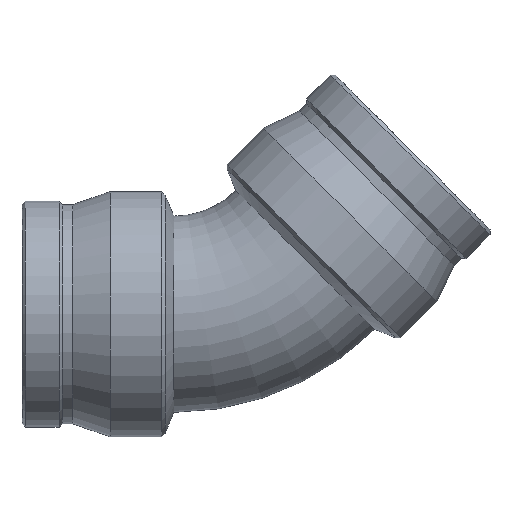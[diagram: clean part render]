
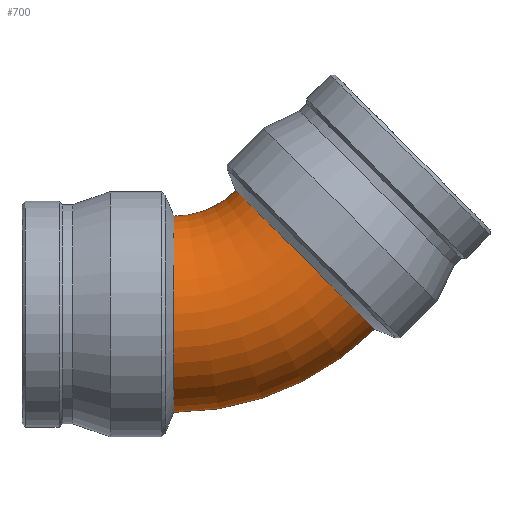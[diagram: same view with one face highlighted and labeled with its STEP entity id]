
A CAD part, front view. The second image highlights one B-rep face of the part: STEP entity #700.
In plain terms, the highlighted toroidal (fillet/blend) face has major radius 107.96 mm and minor radius 56.998 mm.
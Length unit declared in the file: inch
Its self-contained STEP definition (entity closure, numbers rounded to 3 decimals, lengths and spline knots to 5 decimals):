
#130=FACE_OUTER_BOUND('',#172,.T.);
#172=EDGE_LOOP('',(#488,#489,#490,#491,#492,#493,#494));
#229=CIRCLE('',#769,2.244);
#230=CIRCLE('',#770,2.00637);
#231=CIRCLE('',#771,2.244);
#232=CIRCLE('',#772,2.244);
#233=CIRCLE('',#773,2.244);
#234=CIRCLE('',#774,2.244);
#302=VERTEX_POINT('',#1155);
#303=VERTEX_POINT('',#1156);
#304=VERTEX_POINT('',#1158);
#305=VERTEX_POINT('',#1160);
#306=VERTEX_POINT('',#1162);
#379=EDGE_CURVE('',#302,#303,#229,.T.);
#380=EDGE_CURVE('',#302,#304,#230,.T.);
#381=EDGE_CURVE('',#305,#304,#231,.T.);
#382=EDGE_CURVE('',#306,#305,#232,.T.);
#383=EDGE_CURVE('',#304,#306,#233,.T.);
#384=EDGE_CURVE('',#303,#302,#234,.T.);
#488=ORIENTED_EDGE('',*,*,#379,.F.);
#489=ORIENTED_EDGE('',*,*,#380,.T.);
#490=ORIENTED_EDGE('',*,*,#381,.F.);
#491=ORIENTED_EDGE('',*,*,#382,.F.);
#492=ORIENTED_EDGE('',*,*,#383,.F.);
#493=ORIENTED_EDGE('',*,*,#380,.F.);
#494=ORIENTED_EDGE('',*,*,#384,.F.);
#698=TOROIDAL_SURFACE('',#768,4.25037,2.244);
#700=ADVANCED_FACE('',(#130),#698,.T.);
#768=AXIS2_PLACEMENT_3D('',#1154,#893,#894);
#769=AXIS2_PLACEMENT_3D('',#1157,#895,#896);
#770=AXIS2_PLACEMENT_3D('',#1159,#897,#898);
#771=AXIS2_PLACEMENT_3D('',#1161,#899,#900);
#772=AXIS2_PLACEMENT_3D('',#1163,#901,#902);
#773=AXIS2_PLACEMENT_3D('',#1164,#903,#904);
#774=AXIS2_PLACEMENT_3D('',#1165,#905,#906);
#893=DIRECTION('center_axis',(0.,-1.,0.));
#894=DIRECTION('ref_axis',(0.,0.,-1.));
#895=DIRECTION('center_axis',(0.707,0.,0.707));
#896=DIRECTION('ref_axis',(0.,-1.,0.));
#897=DIRECTION('center_axis',(0.,1.,0.));
#898=DIRECTION('ref_axis',(0.,0.,-1.));
#899=DIRECTION('center_axis',(-1.,0.,0.));
#900=DIRECTION('ref_axis',(0.,-1.,0.));
#901=DIRECTION('center_axis',(-1.,0.,0.));
#902=DIRECTION('ref_axis',(0.,-1.,0.));
#903=DIRECTION('center_axis',(-1.,0.,0.));
#904=DIRECTION('ref_axis',(0.,-1.,0.));
#905=DIRECTION('center_axis',(0.707,0.,0.707));
#906=DIRECTION('ref_axis',(0.,-1.,0.));
#1154=CARTESIAN_POINT('Origin',(-1.76056,0.,4.25037));
#1155=CARTESIAN_POINT('',(-0.34184,0.,2.83165));
#1156=CARTESIAN_POINT('',(1.24491,2.244,1.24491));
#1157=CARTESIAN_POINT('Origin',(1.24491,0.,1.24491));
#1158=CARTESIAN_POINT('',(-1.76056,0.,2.244));
#1159=CARTESIAN_POINT('Origin',(-1.76056,0.,
4.25037));
#1160=CARTESIAN_POINT('',(-1.76056,0.,-2.244));
#1161=CARTESIAN_POINT('Origin',(-1.76056,0.,0.));
#1162=CARTESIAN_POINT('',(-1.76056,2.244,0.));
#1163=CARTESIAN_POINT('Origin',(-1.76056,0.,0.));
#1164=CARTESIAN_POINT('Origin',(-1.76056,0.,0.));
#1165=CARTESIAN_POINT('Origin',(1.24491,0.,1.24491));
